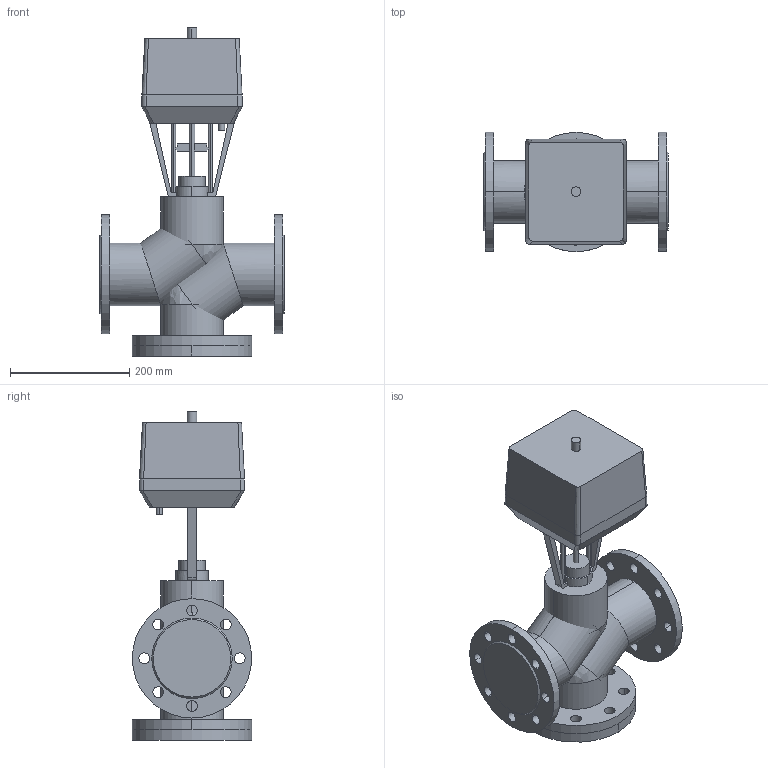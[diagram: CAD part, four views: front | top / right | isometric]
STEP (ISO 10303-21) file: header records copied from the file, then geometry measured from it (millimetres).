
FILE_DESCRIPTION(/* description */ (''),/* implementation_level */ '2;1');
FILE_NAME(/* name */ 'ТРК DN80 PN 1.6 МПа VTM-i 3000H',/* time_stamp */ '2026-07-14T23:24:26+03:00',/* author */ (''),/* organization */ (''),/* preprocessor_version */ 'ST-DEVELOPER v20',/* originating_system */ '',/* authorisation */ '');
FILE_SCHEMA (('AP242_MANAGED_MODEL_BASED_3D_ENGINEERING_MIM_LF { 1 0 10303 442 1 1 4 }'));
Length unit declared in the file: millimetre
Products named in the file (14): TopLevelAssembly; Выдавливание; Модификатор; Модификатор_1; Выдавливание_
1; Выдавливание_
2; Вращение; Выдавливание_
3; Выдавливание_
4; 1600; Переход; Объемная геометрия 
присоединена; Полый Выдавливание; Объемная геометрия 
присоединена_1
Assembly tree (13 placements, depth 2):
  TopLevelAssembly
    Выдавливание
    Модификатор
    Модификатор_1
    Выдавливание_
1
    Выдавливание_
2
    Вращение
    Выдавливание_
3
    Выдавливание_
4
    1600
    Переход
    Объемная геометрия 
присоединена
    Полый Выдавливание
    Объемная геометрия 
присоединена_1
Bounding box: 310 x 200 x 550 mm (x, y, z)
Volume: 10747727.3 mm3; surface area: 901428 mm2
Topology: 21 solids, 21 shells, 190 faces, 444 edges, 292 vertices
Faces by surface type: cylinder 96, plane 78, bspline 12, cone 4
Entity records: 6279 total; most frequent: CARTESIAN_POINT 1225, DIRECTION 1074, ORIENTED_EDGE 872, EDGE_CURVE 436, AXIS2_PLACEMENT_3D 433, VERTEX_POINT 292, EDGE_LOOP 248, CIRCLE 220
